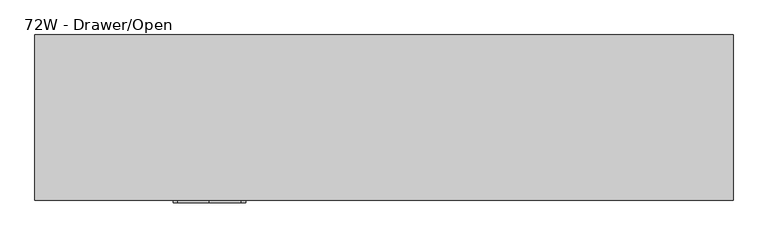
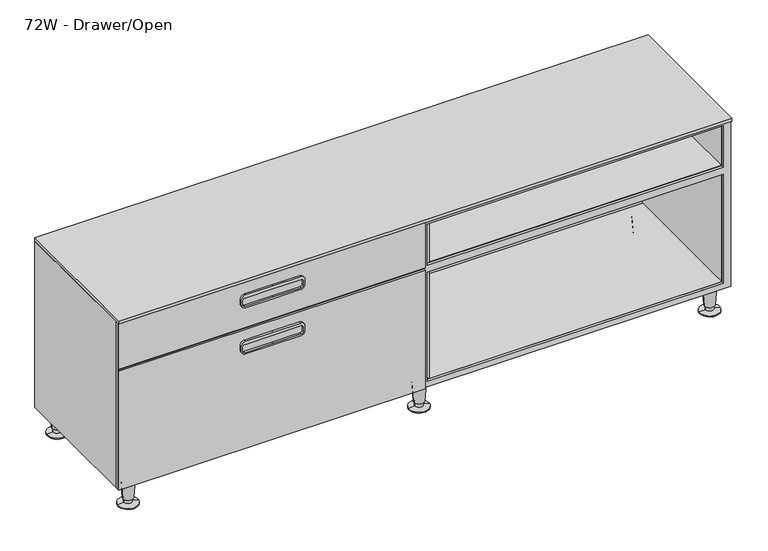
"""IFC4 building model written with IfcOpenShell, lengths in millimetres: furniture geometry, Steelcase - C Scape - Low Storage - 1.5 High - 60W and 72W : 72W - Drawer/Open."""

import ifcopenshell
import ifcopenshell.guid

model = None  # the IFC model being written
_history = None  # IfcOwnerHistory: only IFC2X3 demands one
_inside = {}  # id of a spatial element -> (the spatial element, [elements in it])
_under = {}  # id of a project, library or spatial element -> (it, [spatial elements below it])
_declared = {}  # id of a project -> (the project, [libraries it declares])
_typed = {}  # id of a type object -> (the type object, [elements of that type])
_made_of = {}  # id of a material, layer set ... -> (it, [elements and type objects made of it])


def new_model(schema):
    """Start an empty IFC model of exactly this schema.

    Asked for "IFC4X3", IfcOpenShell would pick the latest addendum, in which some entities
    have other attributes; the version numbers below select the first issue.
    IFC2X3 requires an IfcOwnerHistory on every rooted entity: one is made here for all.
    """
    global model, _history
    if schema == "IFC4X3":
        model = ifcopenshell.file(schema_version=(4, 3, 0, 0))
    else:
        model = ifcopenshell.file(schema=schema)
    _inside.clear()
    _under.clear()
    _declared.clear()
    _typed.clear()
    _made_of.clear()
    _history = None
    if model.schema == "IFC2X3":
        org = make("IfcOrganization", Name="unknown")
        user = make(
            "IfcPersonAndOrganization",
            ThePerson=make("IfcPerson", FamilyName="unknown"),
            TheOrganization=org,
        )
        app = make(
            "IfcApplication",
            ApplicationDeveloper=org,
            Version="unknown",
            ApplicationFullName="unknown",
            ApplicationIdentifier="unknown",
        )
        _history = make(
            "IfcOwnerHistory",
            OwningUser=user,
            OwningApplication=app,
            ChangeAction="ADDED",
            CreationDate=0,
        )
    return model


def make(cls, **values):
    """One entity of the class cls with the attributes given. An attribute that is None is left unset."""
    return model.create_entity(
        cls, **{name: value for name, value in values.items() if value is not None}
    )


def rooted(cls, **values):
    """An entity with a GlobalId (a new one), such as an element, a storey or a relation."""
    return make(cls, GlobalId=ifcopenshell.guid.new(), OwnerHistory=_history, **values)


def si_unit(unit_type, name, prefix=None):
    """IfcSIUnit, for example si_unit("LENGTHUNIT", "METRE", prefix="MILLI")."""
    return make("IfcSIUnit", UnitType=unit_type, Prefix=prefix, Name=name)


def assignment(units):
    """IfcUnitAssignment: the units of a project."""
    return None if units is None else make("IfcUnitAssignment", Units=units)


def point(xyz):
    """IfcCartesianPoint."""
    return None if xyz is None else make("IfcCartesianPoint", Coordinates=xyz)


def direction(xyz):
    """IfcDirection."""
    return None if xyz is None else make("IfcDirection", DirectionRatios=xyz)


def frame(location, z_axis=None, x_axis=None):
    """IfcAxis2Placement3D, a coordinate frame: its origin and axes. An axis left out is left unset."""
    return make(
        "IfcAxis2Placement3D",
        Location=point(location),
        Axis=direction(z_axis),
        RefDirection=direction(x_axis),
    )


def frame_2d(location, x_axis=None):
    """IfcAxis2Placement2D, a coordinate frame in the plane: its origin and x axis."""
    return make(
        "IfcAxis2Placement2D", Location=point(location), RefDirection=direction(x_axis)
    )


def origin():
    """The frame at (0, 0, 0) with its axes left unset."""
    return frame((0.0, 0.0, 0.0))


def place(relative_to, where):
    """IfcLocalPlacement: puts the frame where relative to a parent placement (None: the world)."""
    return make(
        "IfcLocalPlacement", PlacementRelTo=relative_to, RelativePlacement=where
    )


def context(
    kind, dimensions, precision=None, world=None, true_north=None, identifier=None
):
    """IfcGeometricRepresentationContext, for example the 3D "Model" context."""
    return make(
        "IfcGeometricRepresentationContext",
        ContextIdentifier=identifier,
        ContextType=kind,
        CoordinateSpaceDimension=dimensions,
        Precision=precision,
        WorldCoordinateSystem=world,
        TrueNorth=true_north,
    )


def project(units=None, contexts=None):
    """IfcProject with its units and contexts."""
    return rooted(
        "IfcProject",
        Name="project",
        RepresentationContexts=contexts,
        UnitsInContext=assignment(units),
    )


def spatial(cls, under=None, at=None, **own):
    """A site, building, storey or space (cls), placed at a placement, below another one or the project."""
    s = rooted(cls, ObjectPlacement=at, **own)
    if under is not None:
        _under.setdefault(under.id(), (under, []))[1].append(s)
    return s


def polyline(points):
    """IfcPolyline through the points."""
    return make("IfcPolyline", Points=[point(p) for p in points])


def circle_curve(where, radius):
    """IfcCircle in the frame where."""
    return make("IfcCircle", Position=where, Radius=radius)


def trimmed(basis, trim1, trim2, sense, master):
    """IfcTrimmedCurve: the piece of a basis curve between two trims."""
    return make(
        "IfcTrimmedCurve",
        BasisCurve=basis,
        Trim1=trim1,
        Trim2=trim2,
        SenseAgreement=sense,
        MasterRepresentation=master,
    )


def segment(curve, same_sense, transition):
    """IfcCompositeCurveSegment."""
    return make(
        "IfcCompositeCurveSegment",
        Transition=transition,
        SameSense=same_sense,
        ParentCurve=curve,
    )


def composite_curve(segments, self_intersect=None):
    """IfcCompositeCurve: segments joined end to end."""
    return make("IfcCompositeCurve", Segments=segments, SelfIntersect=self_intersect)


def outline(outer, holes=None, kind="AREA"):
    """IfcArbitraryClosedProfileDef: a profile drawn as a closed curve; with holes, ...WithVoids."""
    if holes is None:
        return make("IfcArbitraryClosedProfileDef", ProfileType=kind, OuterCurve=outer)
    return make(
        "IfcArbitraryProfileDefWithVoids",
        ProfileType=kind,
        OuterCurve=outer,
        InnerCurves=holes,
    )


def extrude(swept, where, along, depth):
    """IfcExtrudedAreaSolid: the profile swept, set in the frame where, extruded along a direction by depth."""
    return make(
        "IfcExtrudedAreaSolid",
        SweptArea=swept,
        Position=where,
        ExtrudedDirection=direction(along),
        Depth=depth,
    )


def faces_of(points, faces, orient=None, outer=None):
    """IfcFace entities. A face is a list of loops; a loop is a list of indices into points, from 0.

    orient and outer hold one flag for each loop. By default every Orientation is true, the
    first loop of a face is its IfcFaceOuterBound and the others are IfcFaceBound.
    """
    made = []
    for i, loops in enumerate(faces):
        bounds = []
        for j, loop in enumerate(loops):
            is_outer = j == 0 if outer is None else outer[i][j]
            bounds.append(
                make(
                    "IfcFaceOuterBound" if is_outer else "IfcFaceBound",
                    Bound=make("IfcPolyLoop", Polygon=[points[k] for k in loop]),
                    Orientation=True if orient is None else orient[i][j],
                )
            )
        made.append(make("IfcFace", Bounds=bounds))
    return made


def faceted_brep(points, faces, orient=None, outer=None, voids=None):
    """IfcFacetedBrep: a solid bounded by flat faces; with voids (closed shells), ...WithVoids."""
    shared = [point(p) for p in points]
    hull = make("IfcClosedShell", CfsFaces=faces_of(shared, faces, orient, outer))
    if voids is None:
        return make("IfcFacetedBrep", Outer=hull)
    return make(
        "IfcFacetedBrepWithVoids",
        Outer=hull,
        Voids=[
            make(cls, CfsFaces=faces_of(shared, fs, o, b)) for cls, fs, o, b in voids
        ],
    )


def shape(context_of_items, identifier, shape_type, items):
    """IfcShapeRepresentation: the items that make up one representation, for example the "Body"."""
    return make(
        "IfcShapeRepresentation",
        ContextOfItems=context_of_items,
        RepresentationIdentifier=identifier,
        RepresentationType=shape_type,
        Items=items,
    )


def source(mapping_origin, context_of_items, identifier, shape_type, items):
    """IfcRepresentationMap: a shape defined once, which mapped items show again and again."""
    return make(
        "IfcRepresentationMap",
        MappingOrigin=mapping_origin,
        MappedRepresentation=shape(context_of_items, identifier, shape_type, items),
    )


def transform(
    local_origin,
    x_axis=None,
    y_axis=None,
    z_axis=None,
    scale=None,
    scale2=None,
    scale3=None,
    uniform=True,
):
    """IfcCartesianTransformationOperator3D, or its non-uniform kind. x_axis, y_axis, z_axis: its Axis1, 2, 3."""
    if uniform:
        return make(
            "IfcCartesianTransformationOperator3D",
            Axis1=direction(x_axis),
            Axis2=direction(y_axis),
            LocalOrigin=point(local_origin),
            Scale=scale,
            Axis3=direction(z_axis),
        )
    return make(
        "IfcCartesianTransformationOperator3DnonUniform",
        Axis1=direction(x_axis),
        Axis2=direction(y_axis),
        LocalOrigin=point(local_origin),
        Scale=scale,
        Axis3=direction(z_axis),
        Scale2=scale2,
        Scale3=scale3,
    )


def mapped(mapping_source, mapping_target):
    """IfcMappedItem: shows the shape of a source again, moved by a transform."""
    return make(
        "IfcMappedItem", MappingSource=mapping_source, MappingTarget=mapping_target
    )


def made_of(thing, what):
    """Note that an element or type object is made of a material, layer set ...; save() writes the relation."""
    if what is not None:
        _made_of.setdefault(what.id(), (what, []))[1].append(thing)
    return thing


def element(
    cls,
    number,
    at=None,
    inside=None,
    cuts=None,
    type_object=None,
    material=None,
    context=None,
    identifier="Body",
    shape_type=None,
    held_by="IfcProductDefinitionShape",
    body=None,
    shapes=None,
    **own,
):
    """One element of the class cls, such as IfcWall. Its Tag is "e" and its number.

    at: its placement. inside: the storey or other place that contains it. cuts: it is an
    opening in that element (IfcRelVoidsElement). A single representation is given by context,
    identifier, shape_type and body (its items); several are given by shapes. held_by: the class
    of the entity that holds the representations. save() writes the other relations.
    """
    e = rooted(cls, Tag="e%d" % number, ObjectPlacement=at, **own)
    if body is not None:
        shapes = [shape(context, identifier, shape_type, body)]
    if shapes is not None:
        e.Representation = make(held_by, Representations=shapes)
    if inside is not None:
        _inside.setdefault(inside.id(), (inside, []))[1].append(e)
    if cuts is not None:
        rooted(
            "IfcRelVoidsElement", RelatingBuildingElement=cuts, RelatedOpeningElement=e
        )
    if type_object is not None:
        _typed.setdefault(type_object.id(), (type_object, []))[1].append(e)
    return made_of(e, material)


def aggregate(whole, parts):
    """IfcRelAggregates: a whole, such as a stair, and the parts it consists of."""
    return rooted("IfcRelAggregates", RelatingObject=whole, RelatedObjects=parts)


def save(model, path):
    """Write the relations noted so far, then the file.

    IfcRelAggregates (storeys below a building ...), IfcRelContainedInSpatialStructure (elements
    in a storey), IfcRelDefinesByType, IfcRelAssociatesMaterial and IfcRelDeclares: one each for
    every whole, place, type object, material and project.
    """
    for whole, parts in _under.values():
        aggregate(whole, parts)
    for where, things in _inside.values():
        rooted(
            "IfcRelContainedInSpatialStructure",
            RelatedElements=things,
            RelatingStructure=where,
        )
    for kind, things in _typed.values():
        rooted("IfcRelDefinesByType", RelatedObjects=things, RelatingType=kind)
    for what, things in _made_of.values():
        rooted("IfcRelAssociatesMaterial", RelatedObjects=things, RelatingMaterial=what)
    for by, libraries in _declared.values():
        rooted("IfcRelDeclares", RelatingContext=by, RelatedDefinitions=libraries)
    model.write(path)


def plane_surface(at):
    """IfcPlane: the flat surface through the origin of the frame at, square to its z axis."""
    return make("IfcPlane", Position=at)


def cylinder_surface(at, radius):
    """IfcCylindricalSurface: all points at the distance radius from the z axis of the frame at."""
    return make("IfcCylindricalSurface", Position=at, Radius=radius)


def revolved_surface(curve, axis_point, axis_direction):
    """IfcSurfaceOfRevolution: the curve turned about the line through axis_point along axis_direction."""
    return make(
        "IfcSurfaceOfRevolution",
        SweptCurve=make("IfcArbitraryOpenProfileDef", ProfileType="CURVE", Curve=curve),
        AxisPosition=make("IfcAxis1Placement", Location=point(axis_point), Axis=direction(axis_direction)),
    )


def advanced_brep(points, edges, surfaces, faces):
    """IfcAdvancedBrep: a solid bounded by faces that lie on surfaces and meet in shared edges.

    An edge is (start, end): straight between two places in points (the first is 0);
    or (start, end, curve); or (start, end, curve, False) where it runs against its curve.
    A face is (place in surfaces, loops), or (place, loops, False) where it looks against
    its surface's normal. A loop lists edges by number (the first is 1), with a minus sign
    where the edge is run from its end to its start. The first loop is the outer one.
    """
    corners = [point(p) for p in points]
    vertices = [make("IfcVertexPoint", VertexGeometry=c) for c in corners]
    made = []
    for start, end, *more in edges:
        made.append(
            make(
                "IfcEdgeCurve",
                EdgeStart=vertices[start],
                EdgeEnd=vertices[end],
                EdgeGeometry=more[0] if more else make("IfcPolyline", Points=[corners[start], corners[end]]),
                SameSense=more[1] if len(more) > 1 else True,
            )
        )
    hull = []
    for where, loops, *sense in faces:
        bounds = []
        for j, loop in enumerate(loops):
            ring = [make("IfcOrientedEdge", EdgeElement=made[abs(k) - 1], Orientation=k > 0) for k in loop]
            bounds.append(
                make(
                    "IfcFaceOuterBound" if j == 0 else "IfcFaceBound",
                    Bound=make("IfcEdgeLoop", EdgeList=ring),
                    Orientation=True,
                )
            )
        hull.append(make("IfcAdvancedFace", Bounds=bounds, FaceSurface=surfaces[where], SameSense=sense[0] if sense else True))
    return make("IfcAdvancedBrep", Outer=make("IfcClosedShell", CfsFaces=hull))


def furniture_72w_drawer_open_849e35a4(model_context):
    return source(origin(), model_context, "Body", "SolidModel", [
        extrude(outline(polyline([(76.1508625, -305.435), (76.1508625, 1523.365), (599.4400097, 1523.365), (599.4400097, 609.532594), (599.4400097, -305.435), (76.1508625, -305.435)]), holes=[polyline([(92.7100024, 600.0410976), (92.7100024, -283.4617676), (436.8800097, -283.4617676), (436.8800097, 600.0410976), (92.7100024, 600.0410976)]), polyline([(588.9625, -283.4617676), (588.9625, 600.0410976), (458.7240097, 600.0410976), (458.7240097, -283.4617676), (588.9625, -283.4617676)]), polyline([(436.8800097, 617.8889024), (436.8800097, 1501.3917676), (92.7100024, 1501.3917676), (92.7100024, 617.8889024), (436.8800097, 617.8889024)]), polyline([(588.9625, 1501.3917676), (458.7240097, 1501.3917676), (458.7240097, 617.8889024), (588.9625, 617.8889024), (588.9625, 1501.3917676)])]), frame((0.0, -426.7186111, 0.0), z_axis=(0.0, 1.0, 0.0), x_axis=(0.0, 0.0, 1.0)), (0.0, 0.0, 1.0), 7.3648883),
        extrude(outline(polyline([(631.5075126, -9.525), (1501.3917676, -9.525), (1501.3917676, -415.2912402), (631.5075126, -415.2912402), (631.5075126, -9.525)])), frame((0.0, 0.0, 436.8800097), z_axis=(0.0, 0.0, 1.0), x_axis=(1.0, 0.0, 0.0)), (0.0, 0.0, 1.0), 21.844),
        extrude(outline(polyline([(586.4224874, -415.2912402), (-283.4617676, -415.2912402), (-283.4617676, -9.525), (586.4224874, -9.525), (586.4224874, -415.2912402)])), frame((0.0, 0.0, 436.8800097), z_axis=(0.0, 0.0, 1.0), x_axis=(1.0, 0.0, 0.0)), (0.0, 0.0, 1.0), 21.844),
        extrude(outline(composite_curve([segment(polyline([(419.0999879, 233.6804108), (419.0999879, 151.447655), (419.0999879, 69.2148993)]), True, "CONTINUOUS"), segment(trimmed(circle_curve(frame_2d((406.3999879, 69.2148993)), 12.7), [point((419.0999879, 69.2148993))], [point((406.3999879, 56.5148993))], False, "CARTESIAN"), True, "CONTINUOUS"), segment(polyline([(406.3999879, 56.5148993), (391.795017, 56.5148993)]), True, "CONTINUOUS"), segment(trimmed(circle_curve(frame_2d((391.795017, 69.2148993)), 12.7), [point((391.795017, 56.5148993))], [point((379.095017, 69.2148993))], False, "CARTESIAN"), True, "CONTINUOUS"), segment(polyline([(379.095017, 69.2148993), (379.095017, 151.447655), (379.095017, 233.6804108)]), True, "CONTINUOUS"), segment(trimmed(circle_curve(frame_2d((391.795017, 233.6804108)), 12.7), [point((379.095017, 233.6804108))], [point((391.795017, 246.3804108))], False, "CARTESIAN"), True, "CONTINUOUS"), segment(polyline([(391.795017, 246.3804108), (406.3999879, 246.3804108)]), True, "CONTINUOUS"), segment(trimmed(circle_curve(frame_2d((406.3999879, 233.6804108)), 12.7), [point((406.3999879, 246.3804108))], [point((419.0999879, 233.6804108))], False, "CARTESIAN"), True, "CONTINUOUS")], self_intersect=False), holes=[composite_curve([segment(polyline([(402.9710063, 241.5527985), (390.2709942, 241.5527985)]), True, "CONTINUOUS"), segment(trimmed(circle_curve(frame_2d((390.2709942, 235.2027985)), 6.35), [point((390.2709942, 241.5527985))], [point((383.9209942, 235.2027985))], True, "CARTESIAN"), True, "CONTINUOUS"), segment(polyline([(383.9209942, 235.2027985), (383.9209942, 151.447655), (383.9209942, 67.6925116)]), True, "CONTINUOUS"), segment(trimmed(circle_curve(frame_2d((390.2709942, 67.6925116)), 6.35), [point((383.9209942, 67.6925116))], [point((390.2709942, 61.3425116))], True, "CARTESIAN"), True, "CONTINUOUS"), segment(polyline([(390.2709942, 61.3425116), (402.9710063, 61.3425116)]), True, "CONTINUOUS"), segment(trimmed(circle_curve(frame_2d((402.9710063, 67.6925116)), 6.35), [point((402.9710063, 61.3425116))], [point((409.3210063, 67.6925116))], True, "CARTESIAN"), True, "CONTINUOUS"), segment(polyline([(409.3210063, 67.6925116), (409.3210063, 151.447655), (409.3210063, 235.2027985)]), True, "CONTINUOUS"), segment(trimmed(circle_curve(frame_2d((402.9710063, 235.2027985)), 6.35), [point((409.3210063, 235.2027985))], [point((402.9710063, 241.5527985))], True, "CARTESIAN"), True, "CONTINUOUS")], self_intersect=False)]), frame((0.0, -439.42, 0.0), z_axis=(0.0, 1.0, 0.0), x_axis=(0.0, 0.0, 1.0)), (0.0, 0.0, 1.0), 6.35),
        extrude(outline(polyline([(608.3303101, -426.7186111), (608.3303101, -433.07), (-304.8, -433.07), (-304.8, -426.7186111), (608.3303101, -426.7186111)])), frame((0.0, 0.0, 458.7240097), z_axis=(0.0, 0.0, 1.0), x_axis=(1.0, 0.0, 0.0)), (0.0, 0.0, 1.0), 140.716),
        faceted_brep([(-283.4617676, -419.3537227, 92.7100024), (1501.3917676, -419.3537227, 92.7100024), (1501.3917676, -9.525, 92.7100024), (631.5075126, -9.525, 92.7100024), (631.5075126, -415.2912402, 92.7100024), (586.4224874, -415.2912402, 92.7100024), (586.4224874, -9.525, 92.7100024), (-283.4617676, -9.525, 92.7100024), (1523.365, 0.0, 76.2), (1523.365, -419.3537227, 76.2), (-305.435, -419.3537227, 76.2), (-305.435, 0.0, 76.2), (-283.4630912, -419.3537227, 599.4400097), (-305.435, -419.3537227, 599.4400097), (1523.365, -419.3537227, 599.4400097), (1501.3917676, -419.3537227, 599.4400097), (-305.435, 0.0, 599.4400097), (1523.365, 0.0, 599.4400097), (-283.4630912, -9.525, 599.4400097), (586.4224874, -9.525, 599.4400097), (586.4224874, -415.2912402, 599.4400097), (631.5075126, -415.2912402, 599.4400097), (631.5075126, -9.525, 599.4400097), (1501.3917676, -9.525, 599.4400097)], [[[0, 1, 2, 3, 4, 5, 6, 7]], [[8, 9, 10, 11]], [[1, 0, 12, 13, 10, 9, 14, 15]], [[8, 11, 16, 17]], [[16, 13, 12, 18, 19, 20, 21, 22, 23, 15, 14, 17]], [[13, 16, 11, 10]], [[18, 12, 0, 7]], [[19, 18, 7, 6]], [[20, 19, 6, 5]], [[22, 21, 4, 3]], [[23, 22, 3, 2]], [[15, 23, 2, 1]], [[17, 14, 9, 8]], [[21, 20, 5, 4]]]),
        extrude(outline(composite_curve([segment(polyline([(565.1499879, 233.6804108), (565.1499879, 151.447655), (565.1499879, 69.2148993)]), True, "CONTINUOUS"), segment(trimmed(circle_curve(frame_2d((552.4499879, 69.2148993)), 12.7), [point((565.1499879, 69.2148993))], [point((552.4499879, 56.5148993))], False, "CARTESIAN"), True, "CONTINUOUS"), segment(polyline([(552.4499879, 56.5148993), (537.845017, 56.5148993)]), True, "CONTINUOUS"), segment(trimmed(circle_curve(frame_2d((537.845017, 69.2148993)), 12.7), [point((537.845017, 56.5148993))], [point((525.145017, 69.2148993))], False, "CARTESIAN"), True, "CONTINUOUS"), segment(polyline([(525.145017, 69.2148993), (525.145017, 151.447655), (525.145017, 233.6804108)]), True, "CONTINUOUS"), segment(trimmed(circle_curve(frame_2d((537.845017, 233.6804108)), 12.7), [point((525.145017, 233.6804108))], [point((537.845017, 246.3804108))], False, "CARTESIAN"), True, "CONTINUOUS"), segment(polyline([(537.845017, 246.3804108), (552.4499879, 246.3804108)]), True, "CONTINUOUS"), segment(trimmed(circle_curve(frame_2d((552.4499879, 233.6804108)), 12.7), [point((552.4499879, 246.3804108))], [point((565.1499879, 233.6804108))], False, "CARTESIAN"), True, "CONTINUOUS")], self_intersect=False), holes=[composite_curve([segment(polyline([(549.0210063, 241.5527985), (536.3209942, 241.5527985)]), True, "CONTINUOUS"), segment(trimmed(circle_curve(frame_2d((536.3209942, 235.2027985)), 6.35), [point((536.3209942, 241.5527985))], [point((529.9709942, 235.2027985))], True, "CARTESIAN"), True, "CONTINUOUS"), segment(polyline([(529.9709942, 235.2027985), (529.9709942, 151.447655), (529.9709942, 67.6925116)]), True, "CONTINUOUS"), segment(trimmed(circle_curve(frame_2d((536.3209942, 67.6925116)), 6.35), [point((529.9709942, 67.6925116))], [point((536.3209942, 61.3425116))], True, "CARTESIAN"), True, "CONTINUOUS"), segment(polyline([(536.3209942, 61.3425116), (549.0210063, 61.3425116)]), True, "CONTINUOUS"), segment(trimmed(circle_curve(frame_2d((549.0210063, 67.6925116)), 6.35), [point((549.0210063, 61.3425116))], [point((555.3710063, 67.6925116))], True, "CARTESIAN"), True, "CONTINUOUS"), segment(polyline([(555.3710063, 67.6925116), (555.3710063, 151.447655), (555.3710063, 235.2027985)]), True, "CONTINUOUS"), segment(trimmed(circle_curve(frame_2d((549.0210063, 235.2027985)), 6.35), [point((555.3710063, 235.2027985))], [point((549.0210063, 241.5527985))], True, "CARTESIAN"), True, "CONTINUOUS")], self_intersect=False)]), frame((0.0, -439.42, 0.0), z_axis=(0.0, 1.0, 0.0), x_axis=(0.0, 0.0, 1.0)), (0.0, 0.0, 1.0), 6.35),
        extrude(outline(polyline([(608.3303101, -426.7186111), (608.3303101, -433.07), (-304.8, -433.07), (-304.8, -426.7186111), (608.3303101, -426.7186111)])), frame((0.0, 0.0, 76.2), z_axis=(0.0, 0.0, 1.0), x_axis=(1.0, 0.0, 0.0)), (0.0, 0.0, 1.0), 374.6500097),
        advanced_brep(
        [(579.8539515, -29.9489775, 0.0), (638.0760485, -38.8569507, 0.0), (608.965, -34.4029641, 0.0), (579.8539515, -29.9489775, 2.5119506), (638.0760485, -38.8569507, 2.5119506), (597.202835, -32.6033544, 5.7545598), (620.727165, -36.2025738, 5.7545598), (596.5140655, -32.4979728, 19.05), (621.4159345, -36.3079555, 19.05), (594.0844786, -32.1262463, 19.05), (623.8455214, -36.6796819, 19.05), (590.1341305, -31.5218435, 76.2), (627.7958695, -37.2840847, 76.2), (608.965, -34.4029641, 76.2)],
        [
            (0, 1, circle_curve(frame((608.965, -34.4029641, 0.0), z_axis=(0.0, 0.0, -1.0), x_axis=(0.0, -1.0, 0.0)), 29.4498071)),
            (1, 2),
            (2, 0),
            (1, 0, circle_curve(frame((608.965, -34.4029641, 0.0), z_axis=(0.0, 0.0, -1.0), x_axis=(0.0, -1.0, 0.0)), 29.4498071)),
            (3, 4, circle_curve(frame((608.965, -34.4029641, 2.5119506), z_axis=(0.0, 0.0, -1.0), x_axis=(0.0, -1.0, 0.0)), 29.4498071)),
            (4, 1),
            (0, 3),
            (4, 3, circle_curve(frame((608.965, -34.4029641, 2.5119506), z_axis=(0.0, 0.0, -1.0), x_axis=(0.0, -1.0, 0.0)), 29.4498071)),
            (5, 6, circle_curve(frame((608.965, -34.4029641, 5.7545598), z_axis=(0.0, 0.0, -1.0), x_axis=(0.0, -1.0, 0.0)), 11.8990387)),
            (6, 4),
            (3, 5),
            (6, 5, circle_curve(frame((608.965, -34.4029641, 5.7545598), z_axis=(0.0, 0.0, -1.0), x_axis=(0.0, -1.0, 0.0)), 11.8990387)),
            (7, 8, circle_curve(frame((608.965, -34.4029641, 19.05), z_axis=(0.0, 0.0, -1.0), x_axis=(0.0, -1.0, 0.0)), 12.5958232)),
            (8, 6),
            (5, 7),
            (8, 7, circle_curve(frame((608.965, -34.4029641, 19.05), z_axis=(0.0, 0.0, -1.0), x_axis=(0.0, -1.0, 0.0)), 12.5958232)),
            (9, 10, circle_curve(frame((608.965, -34.4029641, 19.05), z_axis=(0.0, 0.0, -1.0), x_axis=(0.0, -1.0, 0.0)), 15.0536827)),
            (10, 8),
            (7, 9),
            (10, 9, circle_curve(frame((608.965, -34.4029641, 19.05), z_axis=(0.0, 0.0, -1.0), x_axis=(0.0, -1.0, 0.0)), 15.0536827)),
            (11, 12, circle_curve(frame((608.965, -34.4029641, 76.2), z_axis=(0.0, 0.0, -1.0), x_axis=(0.0, -1.0, 0.0)), 19.05)),
            (12, 10),
            (9, 11),
            (12, 11, circle_curve(frame((608.965, -34.4029641, 76.2), z_axis=(0.0, 0.0, -1.0), x_axis=(0.0, -1.0, 0.0)), 19.05)),
            (13, 12),
            (11, 13),
        ],
        [
            plane_surface(frame((608.965, -34.4029641, 0.0), z_axis=(0.0, 0.0, -1.0), x_axis=(0.0, -1.0, 0.0))),
            cylinder_surface(frame((608.965, -34.4029641, 25.4), z_axis=(0.0, 0.0, 1.0), x_axis=(0.0, -1.0, 0.0)), 29.4498071),
            revolved_surface(polyline([(608.965, -63.8527712, 2.5119506), (608.965, -46.3020028, 5.7545598)]), (608.965, -34.4029641, 25.4), (0.0, 0.0, 1.0)),
            revolved_surface(polyline([(608.965, -46.3020028, 5.7545598), (608.965, -46.9987873, 19.05)]), (608.965, -34.4029641, 25.4), (0.0, 0.0, 1.0)),
            plane_surface(frame((608.965, -34.4029641, 19.05), z_axis=(0.0, 0.0, -1.0), x_axis=(0.0, -1.0, 0.0))),
            revolved_surface(polyline([(608.965, -49.4566468, 19.05), (608.965, -53.4529641, 76.2)]), (608.965, -34.4029641, 25.4), (0.0, 0.0, 1.0)),
            plane_surface(frame((608.965, -34.4029641, 76.2), z_axis=(0.0, 0.0, 1.0), x_axis=(0.0, -1.0, 0.0))),
        ],
        [
            (0, [[1, 2, 3]]),
            (0, [[4, -3, -2]]),
            (1, [[5, 6, -1, 7]]),
            (1, [[8, -7, -4, -6]]),
            (2, [[9, 10, -5, 11]]),
            (2, [[12, -11, -8, -10]]),
            (3, [[13, 14, -9, 15]]),
            (3, [[16, -15, -12, -14]]),
            (4, [[17, 18, -13, 19]]),
            (4, [[20, -19, -16, -18]]),
            (5, [[21, 22, -17, 23]]),
            (5, [[24, -23, -20, -22]]),
            (6, [[25, -21, 26]]),
            (6, [[-26, -24, -25]]),
        ],
    ),
        advanced_brep(
        [(579.8539515, -395.5974102, 0.0), (638.0760485, -404.5053834, 0.0), (608.965, -400.0513968, 0.0), (579.8539515, -395.5974102, 2.5119506), (638.0760485, -404.5053834, 2.5119506), (597.202835, -398.2517871, 5.7545598), (620.727165, -401.8510065, 5.7545598), (596.5140655, -398.1464055, 19.05), (621.4159345, -401.9563882, 19.05), (594.0844786, -397.774679, 19.05), (623.8455214, -402.3281146, 19.05), (590.1341305, -397.1702762, 76.2), (627.7958695, -402.9325174, 76.2), (608.965, -400.0513968, 76.2)],
        [
            (0, 1, circle_curve(frame((608.965, -400.0513968, 0.0), z_axis=(0.0, 0.0, -1.0), x_axis=(0.0, -1.0, 0.0)), 29.4498071)),
            (1, 2),
            (2, 0),
            (1, 0, circle_curve(frame((608.965, -400.0513968, 0.0), z_axis=(0.0, 0.0, -1.0), x_axis=(0.0, -1.0, 0.0)), 29.4498071)),
            (3, 4, circle_curve(frame((608.965, -400.0513968, 2.5119506), z_axis=(0.0, 0.0, -1.0), x_axis=(0.0, -1.0, 0.0)), 29.4498071)),
            (4, 1),
            (0, 3),
            (4, 3, circle_curve(frame((608.965, -400.0513968, 2.5119506), z_axis=(0.0, 0.0, -1.0), x_axis=(0.0, -1.0, 0.0)), 29.4498071)),
            (5, 6, circle_curve(frame((608.965, -400.0513968, 5.7545598), z_axis=(0.0, 0.0, -1.0), x_axis=(0.0, -1.0, 0.0)), 11.8990387)),
            (6, 4),
            (3, 5),
            (6, 5, circle_curve(frame((608.965, -400.0513968, 5.7545598), z_axis=(0.0, 0.0, -1.0), x_axis=(0.0, -1.0, 0.0)), 11.8990387)),
            (7, 8, circle_curve(frame((608.965, -400.0513968, 19.05), z_axis=(0.0, 0.0, -1.0), x_axis=(0.0, -1.0, 0.0)), 12.5958232)),
            (8, 6),
            (5, 7),
            (8, 7, circle_curve(frame((608.965, -400.0513968, 19.05), z_axis=(0.0, 0.0, -1.0), x_axis=(0.0, -1.0, 0.0)), 12.5958232)),
            (9, 10, circle_curve(frame((608.965, -400.0513968, 19.05), z_axis=(0.0, 0.0, -1.0), x_axis=(0.0, -1.0, 0.0)), 15.0536827)),
            (10, 8),
            (7, 9),
            (10, 9, circle_curve(frame((608.965, -400.0513968, 19.05), z_axis=(0.0, 0.0, -1.0), x_axis=(0.0, -1.0, 0.0)), 15.0536827)),
            (11, 12, circle_curve(frame((608.965, -400.0513968, 76.2), z_axis=(0.0, 0.0, -1.0), x_axis=(0.0, -1.0, 0.0)), 19.05)),
            (12, 10),
            (9, 11),
            (12, 11, circle_curve(frame((608.965, -400.0513968, 76.2), z_axis=(0.0, 0.0, -1.0), x_axis=(0.0, -1.0, 0.0)), 19.05)),
            (13, 12),
            (11, 13),
        ],
        [
            plane_surface(frame((608.965, -400.0513968, 0.0), z_axis=(0.0, 0.0, -1.0), x_axis=(0.0, -1.0, 0.0))),
            cylinder_surface(frame((608.965, -400.0513968, 25.4), z_axis=(0.0, 0.0, 1.0), x_axis=(0.0, -1.0, 0.0)), 29.4498071),
            revolved_surface(polyline([(608.965, -429.5012039, 2.5119506), (608.965, -411.9504355, 5.7545598)]), (608.965, -400.0513968, 25.4), (0.0, 0.0, 1.0)),
            revolved_surface(polyline([(608.965, -411.9504355, 5.7545598), (608.965, -412.64722, 19.05)]), (608.965, -400.0513968, 25.4), (0.0, 0.0, 1.0)),
            plane_surface(frame((608.965, -400.0513968, 19.05), z_axis=(0.0, 0.0, -1.0), x_axis=(0.0, -1.0, 0.0))),
            revolved_surface(polyline([(608.965, -415.1050795, 19.05), (608.965, -419.1013968, 76.2)]), (608.965, -400.0513968, 25.4), (0.0, 0.0, 1.0)),
            plane_surface(frame((608.965, -400.0513968, 76.2), z_axis=(0.0, 0.0, 1.0), x_axis=(0.0, -1.0, 0.0))),
        ],
        [
            (0, [[1, 2, 3]]),
            (0, [[4, -3, -2]]),
            (1, [[5, 6, -1, 7]]),
            (1, [[8, -7, -4, -6]]),
            (2, [[9, 10, -5, 11]]),
            (2, [[12, -11, -8, -10]]),
            (3, [[13, 14, -9, 15]]),
            (3, [[16, -15, -12, -14]]),
            (4, [[17, 18, -13, 19]]),
            (4, [[20, -19, -16, -18]]),
            (5, [[21, 22, -17, 23]]),
            (5, [[24, -23, -20, -22]]),
            (6, [[25, -21, 26]]),
            (6, [[-26, -24, -25]]),
        ],
    ),
        advanced_brep(
        [(1446.9075389, -29.9489775, 0.0), (1505.1296359, -38.8569507, 0.0), (1476.0185874, -34.4029641, 0.0), (1446.9075389, -29.9489775, 2.5119506), (1505.1296359, -38.8569507, 2.5119506), (1464.2564224, -32.6033544, 5.7545598), (1487.7807524, -36.2025738, 5.7545598), (1463.5676529, -32.4979728, 19.05), (1488.4695219, -36.3079555, 19.05), (1461.1380659, -32.1262463, 19.05), (1490.8991088, -36.6796819, 19.05), (1457.1877179, -31.5218435, 76.2), (1494.8494568, -37.2840847, 76.2), (1476.0185874, -34.4029641, 76.2)],
        [
            (0, 1, circle_curve(frame((1476.0185874, -34.4029641, 0.0), z_axis=(0.0, 0.0, -1.0), x_axis=(0.0, -1.0, 0.0)), 29.4498071)),
            (1, 2),
            (2, 0),
            (1, 0, circle_curve(frame((1476.0185874, -34.4029641, 0.0), z_axis=(0.0, 0.0, -1.0), x_axis=(0.0, -1.0, 0.0)), 29.4498071)),
            (3, 4, circle_curve(frame((1476.0185874, -34.4029641, 2.5119506), z_axis=(0.0, 0.0, -1.0), x_axis=(0.0, -1.0, 0.0)), 29.4498071)),
            (4, 1),
            (0, 3),
            (4, 3, circle_curve(frame((1476.0185874, -34.4029641, 2.5119506), z_axis=(0.0, 0.0, -1.0), x_axis=(0.0, -1.0, 0.0)), 29.4498071)),
            (5, 6, circle_curve(frame((1476.0185874, -34.4029641, 5.7545598), z_axis=(0.0, 0.0, -1.0), x_axis=(0.0, -1.0, 0.0)), 11.8990387)),
            (6, 4),
            (3, 5),
            (6, 5, circle_curve(frame((1476.0185874, -34.4029641, 5.7545598), z_axis=(0.0, 0.0, -1.0), x_axis=(0.0, -1.0, 0.0)), 11.8990387)),
            (7, 8, circle_curve(frame((1476.0185874, -34.4029641, 19.05), z_axis=(0.0, 0.0, -1.0), x_axis=(0.0, -1.0, 0.0)), 12.5958232)),
            (8, 6),
            (5, 7),
            (8, 7, circle_curve(frame((1476.0185874, -34.4029641, 19.05), z_axis=(0.0, 0.0, -1.0), x_axis=(0.0, -1.0, 0.0)), 12.5958232)),
            (9, 10, circle_curve(frame((1476.0185874, -34.4029641, 19.05), z_axis=(0.0, 0.0, -1.0), x_axis=(0.0, -1.0, 0.0)), 15.0536827)),
            (10, 8),
            (7, 9),
            (10, 9, circle_curve(frame((1476.0185874, -34.4029641, 19.05), z_axis=(0.0, 0.0, -1.0), x_axis=(0.0, -1.0, 0.0)), 15.0536827)),
            (11, 12, circle_curve(frame((1476.0185874, -34.4029641, 76.2), z_axis=(0.0, 0.0, -1.0), x_axis=(0.0, -1.0, 0.0)), 19.05)),
            (12, 10),
            (9, 11),
            (12, 11, circle_curve(frame((1476.0185874, -34.4029641, 76.2), z_axis=(0.0, 0.0, -1.0), x_axis=(0.0, -1.0, 0.0)), 19.05)),
            (13, 12),
            (11, 13),
        ],
        [
            plane_surface(frame((1476.0185874, -34.4029641, 0.0), z_axis=(0.0, 0.0, -1.0), x_axis=(0.0, -1.0, 0.0))),
            cylinder_surface(frame((1476.0185874, -34.4029641, 25.4), z_axis=(0.0, 0.0, 1.0), x_axis=(0.0, -1.0, 0.0)), 29.4498071),
            revolved_surface(polyline([(1476.0185874, -63.8527712, 2.5119506), (1476.0185874, -46.3020028, 5.7545598)]), (1476.0185874, -34.4029641, 25.4), (0.0, 0.0, 1.0)),
            revolved_surface(polyline([(1476.0185874, -46.3020028, 5.7545598), (1476.0185874, -46.9987873, 19.05)]), (1476.0185874, -34.4029641, 25.4), (0.0, 0.0, 1.0)),
            plane_surface(frame((1476.0185874, -34.4029641, 19.05), z_axis=(0.0, 0.0, -1.0), x_axis=(0.0, -1.0, 0.0))),
            revolved_surface(polyline([(1476.0185874, -49.4566468, 19.05), (1476.0185874, -53.4529641, 76.2)]), (1476.0185874, -34.4029641, 25.4), (0.0, 0.0, 1.0)),
            plane_surface(frame((1476.0185874, -34.4029641, 76.2), z_axis=(0.0, 0.0, 1.0), x_axis=(0.0, -1.0, 0.0))),
        ],
        [
            (0, [[1, 2, 3]]),
            (0, [[4, -3, -2]]),
            (1, [[5, 6, -1, 7]]),
            (1, [[8, -7, -4, -6]]),
            (2, [[9, 10, -5, 11]]),
            (2, [[12, -11, -8, -10]]),
            (3, [[13, 14, -9, 15]]),
            (3, [[16, -15, -12, -14]]),
            (4, [[17, 18, -13, 19]]),
            (4, [[20, -19, -16, -18]]),
            (5, [[21, 22, -17, 23]]),
            (5, [[24, -23, -20, -22]]),
            (6, [[25, -21, 26]]),
            (6, [[-26, -24, -25]]),
        ],
    ),
        advanced_brep(
        [(1446.9075389, -395.5974102, 0.0), (1505.1296359, -404.5053834, 0.0), (1476.0185874, -400.0513968, 0.0), (1446.9075389, -395.5974102, 2.5119506), (1505.1296359, -404.5053834, 2.5119506), (1464.2564224, -398.2517871, 5.7545598), (1487.7807524, -401.8510065, 5.7545598), (1463.5676529, -398.1464055, 19.05), (1488.4695219, -401.9563882, 19.05), (1461.1380659, -397.774679, 19.05), (1490.8991088, -402.3281146, 19.05), (1457.1877179, -397.1702762, 76.2), (1494.8494568, -402.9325174, 76.2), (1476.0185874, -400.0513968, 76.2)],
        [
            (0, 1, circle_curve(frame((1476.0185874, -400.0513968, 0.0), z_axis=(0.0, 0.0, -1.0), x_axis=(0.0, -1.0, 0.0)), 29.4498071)),
            (1, 2),
            (2, 0),
            (1, 0, circle_curve(frame((1476.0185874, -400.0513968, 0.0), z_axis=(0.0, 0.0, -1.0), x_axis=(0.0, -1.0, 0.0)), 29.4498071)),
            (3, 4, circle_curve(frame((1476.0185874, -400.0513968, 2.5119506), z_axis=(0.0, 0.0, -1.0), x_axis=(0.0, -1.0, 0.0)), 29.4498071)),
            (4, 1),
            (0, 3),
            (4, 3, circle_curve(frame((1476.0185874, -400.0513968, 2.5119506), z_axis=(0.0, 0.0, -1.0), x_axis=(0.0, -1.0, 0.0)), 29.4498071)),
            (5, 6, circle_curve(frame((1476.0185874, -400.0513968, 5.7545598), z_axis=(0.0, 0.0, -1.0), x_axis=(0.0, -1.0, 0.0)), 11.8990387)),
            (6, 4),
            (3, 5),
            (6, 5, circle_curve(frame((1476.0185874, -400.0513968, 5.7545598), z_axis=(0.0, 0.0, -1.0), x_axis=(0.0, -1.0, 0.0)), 11.8990387)),
            (7, 8, circle_curve(frame((1476.0185874, -400.0513968, 19.05), z_axis=(0.0, 0.0, -1.0), x_axis=(0.0, -1.0, 0.0)), 12.5958232)),
            (8, 6),
            (5, 7),
            (8, 7, circle_curve(frame((1476.0185874, -400.0513968, 19.05), z_axis=(0.0, 0.0, -1.0), x_axis=(0.0, -1.0, 0.0)), 12.5958232)),
            (9, 10, circle_curve(frame((1476.0185874, -400.0513968, 19.05), z_axis=(0.0, 0.0, -1.0), x_axis=(0.0, -1.0, 0.0)), 15.0536827)),
            (10, 8),
            (7, 9),
            (10, 9, circle_curve(frame((1476.0185874, -400.0513968, 19.05), z_axis=(0.0, 0.0, -1.0), x_axis=(0.0, -1.0, 0.0)), 15.0536827)),
            (11, 12, circle_curve(frame((1476.0185874, -400.0513968, 76.2), z_axis=(0.0, 0.0, -1.0), x_axis=(0.0, -1.0, 0.0)), 19.05)),
            (12, 10),
            (9, 11),
            (12, 11, circle_curve(frame((1476.0185874, -400.0513968, 76.2), z_axis=(0.0, 0.0, -1.0), x_axis=(0.0, -1.0, 0.0)), 19.05)),
            (13, 12),
            (11, 13),
        ],
        [
            plane_surface(frame((1476.0185874, -400.0513968, 0.0), z_axis=(0.0, 0.0, -1.0), x_axis=(0.0, -1.0, 0.0))),
            cylinder_surface(frame((1476.0185874, -400.0513968, 25.4), z_axis=(0.0, 0.0, 1.0), x_axis=(0.0, -1.0, 0.0)), 29.4498071),
            revolved_surface(polyline([(1476.0185874, -429.5012039, 2.5119506), (1476.0185874, -411.9504355, 5.7545598)]), (1476.0185874, -400.0513968, 25.4), (0.0, 0.0, 1.0)),
            revolved_surface(polyline([(1476.0185874, -411.9504355, 5.7545598), (1476.0185874, -412.64722, 19.05)]), (1476.0185874, -400.0513968, 25.4), (0.0, 0.0, 1.0)),
            plane_surface(frame((1476.0185874, -400.0513968, 19.05), z_axis=(0.0, 0.0, -1.0), x_axis=(0.0, -1.0, 0.0))),
            revolved_surface(polyline([(1476.0185874, -415.1050795, 19.05), (1476.0185874, -419.1013968, 76.2)]), (1476.0185874, -400.0513968, 25.4), (0.0, 0.0, 1.0)),
            plane_surface(frame((1476.0185874, -400.0513968, 76.2), z_axis=(0.0, 0.0, 1.0), x_axis=(0.0, -1.0, 0.0))),
        ],
        [
            (0, [[1, 2, 3]]),
            (0, [[4, -3, -2]]),
            (1, [[5, 6, -1, 7]]),
            (1, [[8, -7, -4, -6]]),
            (2, [[9, 10, -5, 11]]),
            (2, [[12, -11, -8, -10]]),
            (3, [[13, 14, -9, 15]]),
            (3, [[16, -15, -12, -14]]),
            (4, [[17, 18, -13, 19]]),
            (4, [[20, -19, -16, -18]]),
            (5, [[21, 22, -17, 23]]),
            (5, [[24, -23, -20, -22]]),
            (6, [[25, -21, 26]]),
            (6, [[-26, -24, -25]]),
        ],
    ),
        advanced_brep(
        [(-287.8113721, -395.5974102, 0.0), (-229.5892752, -404.5053834, 0.0), (-258.7003237, -400.0513968, 0.0), (-287.8113721, -395.5974102, 2.5119506), (-229.5892752, -404.5053834, 2.5119506), (-270.4624887, -398.2517871, 5.7545598), (-246.9381586, -401.8510065, 5.7545598), (-271.1512581, -398.1464055, 19.05), (-246.2493892, -401.9563882, 19.05), (-273.5808451, -397.774679, 19.05), (-243.8198022, -402.3281146, 19.05), (-277.5311931, -397.1702762, 76.2), (-239.8694542, -402.9325174, 76.2), (-258.7003237, -400.0513968, 76.2)],
        [
            (0, 1, circle_curve(frame((-258.7003237, -400.0513968, 0.0), z_axis=(0.0, 0.0, -1.0), x_axis=(0.0, -1.0, 0.0)), 29.4498071)),
            (1, 2),
            (2, 0),
            (1, 0, circle_curve(frame((-258.7003237, -400.0513968, 0.0), z_axis=(0.0, 0.0, -1.0), x_axis=(0.0, -1.0, 0.0)), 29.4498071)),
            (3, 4, circle_curve(frame((-258.7003237, -400.0513968, 2.5119506), z_axis=(0.0, 0.0, -1.0), x_axis=(0.0, -1.0, 0.0)), 29.4498071)),
            (4, 1),
            (0, 3),
            (4, 3, circle_curve(frame((-258.7003237, -400.0513968, 2.5119506), z_axis=(0.0, 0.0, -1.0), x_axis=(0.0, -1.0, 0.0)), 29.4498071)),
            (5, 6, circle_curve(frame((-258.7003237, -400.0513968, 5.7545598), z_axis=(0.0, 0.0, -1.0), x_axis=(0.0, -1.0, 0.0)), 11.8990387)),
            (6, 4),
            (3, 5),
            (6, 5, circle_curve(frame((-258.7003237, -400.0513968, 5.7545598), z_axis=(0.0, 0.0, -1.0), x_axis=(0.0, -1.0, 0.0)), 11.8990387)),
            (7, 8, circle_curve(frame((-258.7003237, -400.0513968, 19.05), z_axis=(0.0, 0.0, -1.0), x_axis=(0.0, -1.0, 0.0)), 12.5958232)),
            (8, 6),
            (5, 7),
            (8, 7, circle_curve(frame((-258.7003237, -400.0513968, 19.05), z_axis=(0.0, 0.0, -1.0), x_axis=(0.0, -1.0, 0.0)), 12.5958232)),
            (9, 10, circle_curve(frame((-258.7003237, -400.0513968, 19.05), z_axis=(0.0, 0.0, -1.0), x_axis=(0.0, -1.0, 0.0)), 15.0536827)),
            (10, 8),
            (7, 9),
            (10, 9, circle_curve(frame((-258.7003237, -400.0513968, 19.05), z_axis=(0.0, 0.0, -1.0), x_axis=(0.0, -1.0, 0.0)), 15.0536827)),
            (11, 12, circle_curve(frame((-258.7003237, -400.0513968, 76.2), z_axis=(0.0, 0.0, -1.0), x_axis=(0.0, -1.0, 0.0)), 19.05)),
            (12, 10),
            (9, 11),
            (12, 11, circle_curve(frame((-258.7003237, -400.0513968, 76.2), z_axis=(0.0, 0.0, -1.0), x_axis=(0.0, -1.0, 0.0)), 19.05)),
            (13, 12),
            (11, 13),
        ],
        [
            plane_surface(frame((-258.7003237, -400.0513968, 0.0), z_axis=(0.0, 0.0, -1.0), x_axis=(0.0, -1.0, 0.0))),
            cylinder_surface(frame((-258.7003237, -400.0513968, 25.4), z_axis=(0.0, 0.0, 1.0), x_axis=(0.0, -1.0, 0.0)), 29.4498071),
            revolved_surface(polyline([(-258.7003237, -429.5012039, 2.5119506), (-258.7003237, -411.9504355, 5.7545598)]), (-258.7003237, -400.0513968, 25.4), (0.0, 0.0, 1.0)),
            revolved_surface(polyline([(-258.7003237, -411.9504355, 5.7545598), (-258.7003237, -412.64722, 19.05)]), (-258.7003237, -400.0513968, 25.4), (0.0, 0.0, 1.0)),
            plane_surface(frame((-258.7003237, -400.0513968, 19.05), z_axis=(0.0, 0.0, -1.0), x_axis=(0.0, -1.0, 0.0))),
            revolved_surface(polyline([(-258.7003237, -415.1050795, 19.05), (-258.7003237, -419.1013968, 76.2)]), (-258.7003237, -400.0513968, 25.4), (0.0, 0.0, 1.0)),
            plane_surface(frame((-258.7003237, -400.0513968, 76.2), z_axis=(0.0, 0.0, 1.0), x_axis=(0.0, -1.0, 0.0))),
        ],
        [
            (0, [[1, 2, 3]]),
            (0, [[4, -3, -2]]),
            (1, [[5, 6, -1, 7]]),
            (1, [[8, -7, -4, -6]]),
            (2, [[9, 10, -5, 11]]),
            (2, [[12, -11, -8, -10]]),
            (3, [[13, 14, -9, 15]]),
            (3, [[16, -15, -12, -14]]),
            (4, [[17, 18, -13, 19]]),
            (4, [[20, -19, -16, -18]]),
            (5, [[21, 22, -17, 23]]),
            (5, [[24, -23, -20, -22]]),
            (6, [[25, -21, 26]]),
            (6, [[-26, -24, -25]]),
        ],
    ),
        advanced_brep(
        [(-287.8113721, -29.9489775, 0.0), (-229.5892752, -38.8569507, 0.0), (-258.7003237, -34.4029641, 0.0), (-287.8113721, -29.9489775, 2.5119506), (-229.5892752, -38.8569507, 2.5119506), (-270.4624887, -32.6033544, 5.7545598), (-246.9381586, -36.2025738, 5.7545598), (-271.1512581, -32.4979728, 19.05), (-246.2493892, -36.3079555, 19.05), (-273.5808451, -32.1262463, 19.05), (-243.8198022, -36.6796819, 19.05), (-277.5311931, -31.5218435, 76.2), (-239.8694542, -37.2840847, 76.2), (-258.7003237, -34.4029641, 76.2)],
        [
            (0, 1, circle_curve(frame((-258.7003237, -34.4029641, 0.0), z_axis=(0.0, 0.0, -1.0), x_axis=(0.0, -1.0, 0.0)), 29.4498071)),
            (1, 2),
            (2, 0),
            (1, 0, circle_curve(frame((-258.7003237, -34.4029641, 0.0), z_axis=(0.0, 0.0, -1.0), x_axis=(0.0, -1.0, 0.0)), 29.4498071)),
            (3, 4, circle_curve(frame((-258.7003237, -34.4029641, 2.5119506), z_axis=(0.0, 0.0, -1.0), x_axis=(0.0, -1.0, 0.0)), 29.4498071)),
            (4, 1),
            (0, 3),
            (4, 3, circle_curve(frame((-258.7003237, -34.4029641, 2.5119506), z_axis=(0.0, 0.0, -1.0), x_axis=(0.0, -1.0, 0.0)), 29.4498071)),
            (5, 6, circle_curve(frame((-258.7003237, -34.4029641, 5.7545598), z_axis=(0.0, 0.0, -1.0), x_axis=(0.0, -1.0, 0.0)), 11.8990387)),
            (6, 4),
            (3, 5),
            (6, 5, circle_curve(frame((-258.7003237, -34.4029641, 5.7545598), z_axis=(0.0, 0.0, -1.0), x_axis=(0.0, -1.0, 0.0)), 11.8990387)),
            (7, 8, circle_curve(frame((-258.7003237, -34.4029641, 19.05), z_axis=(0.0, 0.0, -1.0), x_axis=(0.0, -1.0, 0.0)), 12.5958232)),
            (8, 6),
            (5, 7),
            (8, 7, circle_curve(frame((-258.7003237, -34.4029641, 19.05), z_axis=(0.0, 0.0, -1.0), x_axis=(0.0, -1.0, 0.0)), 12.5958232)),
            (9, 10, circle_curve(frame((-258.7003237, -34.4029641, 19.05), z_axis=(0.0, 0.0, -1.0), x_axis=(0.0, -1.0, 0.0)), 15.0536827)),
            (10, 8),
            (7, 9),
            (10, 9, circle_curve(frame((-258.7003237, -34.4029641, 19.05), z_axis=(0.0, 0.0, -1.0), x_axis=(0.0, -1.0, 0.0)), 15.0536827)),
            (11, 12, circle_curve(frame((-258.7003237, -34.4029641, 76.2), z_axis=(0.0, 0.0, -1.0), x_axis=(0.0, -1.0, 0.0)), 19.05)),
            (12, 10),
            (9, 11),
            (12, 11, circle_curve(frame((-258.7003237, -34.4029641, 76.2), z_axis=(0.0, 0.0, -1.0), x_axis=(0.0, -1.0, 0.0)), 19.05)),
            (13, 12),
            (11, 13),
        ],
        [
            plane_surface(frame((-258.7003237, -34.4029641, 0.0), z_axis=(0.0, 0.0, -1.0), x_axis=(0.0, -1.0, 0.0))),
            cylinder_surface(frame((-258.7003237, -34.4029641, 25.4), z_axis=(0.0, 0.0, 1.0), x_axis=(0.0, -1.0, 0.0)), 29.4498071),
            revolved_surface(polyline([(-258.7003237, -63.8527712, 2.5119506), (-258.7003237, -46.3020028, 5.7545598)]), (-258.7003237, -34.4029641, 25.4), (0.0, 0.0, 1.0)),
            revolved_surface(polyline([(-258.7003237, -46.3020028, 5.7545598), (-258.7003237, -46.9987873, 19.05)]), (-258.7003237, -34.4029641, 25.4), (0.0, 0.0, 1.0)),
            plane_surface(frame((-258.7003237, -34.4029641, 19.05), z_axis=(0.0, 0.0, -1.0), x_axis=(0.0, -1.0, 0.0))),
            revolved_surface(polyline([(-258.7003237, -49.4566468, 19.05), (-258.7003237, -53.4529641, 76.2)]), (-258.7003237, -34.4029641, 25.4), (0.0, 0.0, 1.0)),
            plane_surface(frame((-258.7003237, -34.4029641, 76.2), z_axis=(0.0, 0.0, 1.0), x_axis=(0.0, -1.0, 0.0))),
        ],
        [
            (0, [[1, 2, 3]]),
            (0, [[4, -3, -2]]),
            (1, [[5, 6, -1, 7]]),
            (1, [[8, -7, -4, -6]]),
            (2, [[9, 10, -5, 11]]),
            (2, [[12, -11, -8, -10]]),
            (3, [[13, 14, -9, 15]]),
            (3, [[16, -15, -12, -14]]),
            (4, [[17, 18, -13, 19]]),
            (4, [[20, -19, -16, -18]]),
            (5, [[21, 22, -17, 23]]),
            (5, [[24, -23, -20, -22]]),
            (6, [[25, -21, 26]]),
            (6, [[-26, -24, -25]]),
        ],
    ),
        extrude(outline(polyline([(-305.435, 0.0), (1523.365, 0.0), (1523.365, -433.07), (-305.435, -433.07), (-305.435, 0.0)])), frame((0.0, 0.0, 599.4400097), z_axis=(0.0, 0.0, 1.0), x_axis=(1.0, 0.0, 0.0)), (0.0, 0.0, 1.0), 10.1599903),
    ])


if __name__ == "__main__":
    model = new_model("IFC4")
    model_context = context("Model", 3, world=origin())
    ifc_project = project(units=[si_unit("LENGTHUNIT", "METRE", prefix="MILLI")], contexts=[model_context])
    site = spatial("IfcSite", under=ifc_project)
    building = spatial("IfcBuilding", under=site)
    placement = place(None, origin())
    furniture_72w_drawer_open_shape = furniture_72w_drawer_open_849e35a4(model_context)
    element("IfcFurniture", 1, ObjectType="Steelcase - C Scape - Low Storage - 1.5 High - 60W and 72W : 72W - Drawer/Open", at=placement, inside=building, context=model_context, shape_type="MappedRepresentation", body=[
        mapped(furniture_72w_drawer_open_shape, transform((0.0, 0.0, 0.0), x_axis=(1.0, 0.0, 0.0), y_axis=(0.0, 1.0, 0.0), z_axis=(0.0, 0.0, 1.0))),
    ])
    save(model, "model.ifc")
